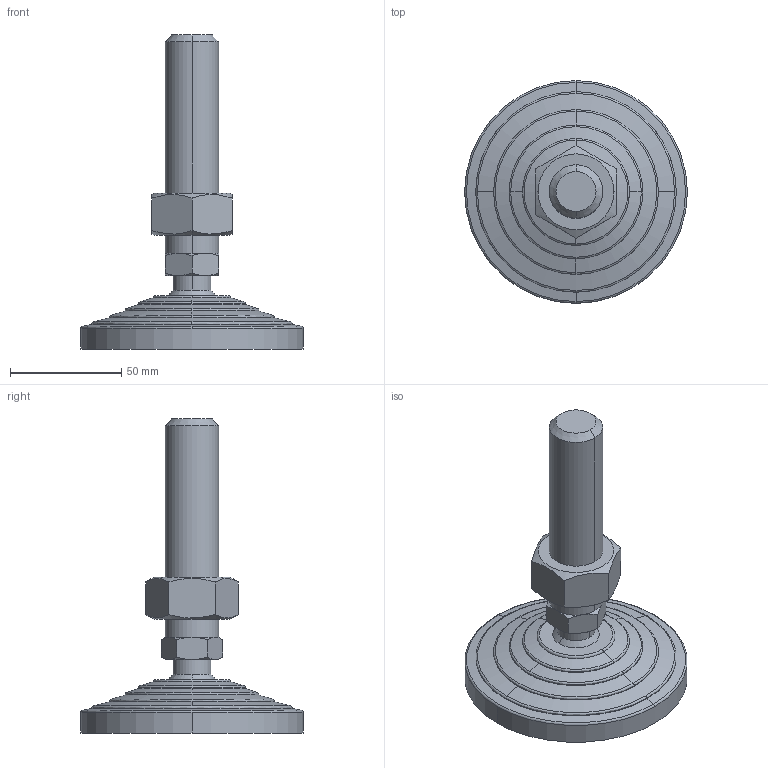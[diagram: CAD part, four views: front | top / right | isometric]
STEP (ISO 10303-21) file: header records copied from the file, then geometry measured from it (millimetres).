
FILE_DESCRIPTION (( 'STEP AP203' ), '1' );
FILE_NAME ('lve100l24a.STEP', '2021-10-25T03:39:53', ( '' ), ( '' ), 'SwSTEP 2.0', 'SolidWorks 2020', '' );
FILE_SCHEMA (( 'CONFIG_CONTROL_DESIGN' ));
Length unit declared in the file: millimetre
Products named in the file (3): lve100l24a; lve100l24a_02; lve100l24a_01
Assembly tree (2 placements, depth 2):
  lve100l24a
    lve100l24a_01
    lve100l24a_02
Bounding box: 100 x 100 x 141 mm (x, y, z)
Volume: 190363.5 mm3; surface area: 33663.6 mm2
Topology: 2 solids, 2 shells, 76 faces, 174 edges, 104 vertices
Faces by surface type: cone 28, plane 18, cylinder 16, bspline 10, torus 4
Entity records: 2775 total; most frequent: CARTESIAN_POINT 831, DIRECTION 354, ORIENTED_EDGE 348, EDGE_CURVE 174, AXIS2_PLACEMENT_3D 155, VERTEX_POINT 104, CIRCLE 84, EDGE_LOOP 80
